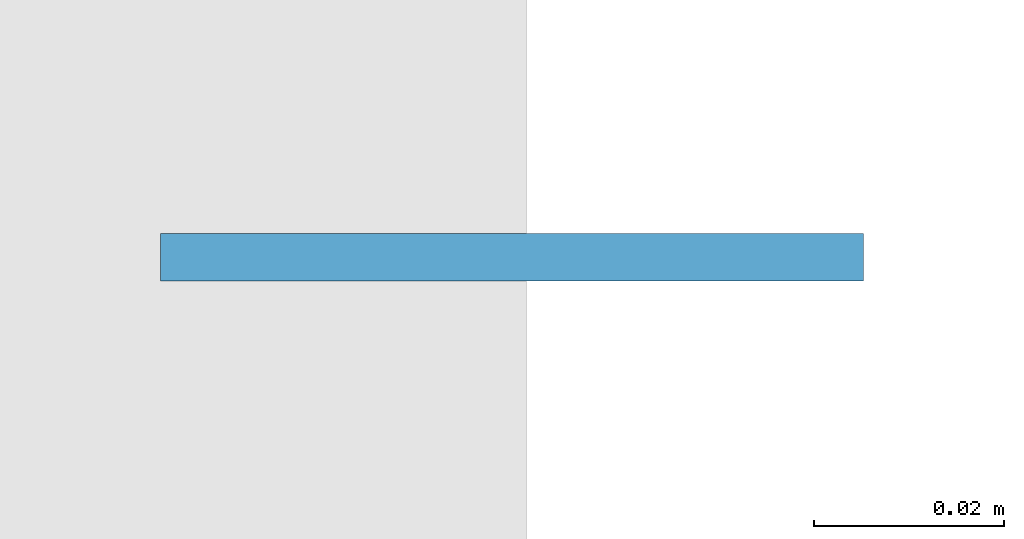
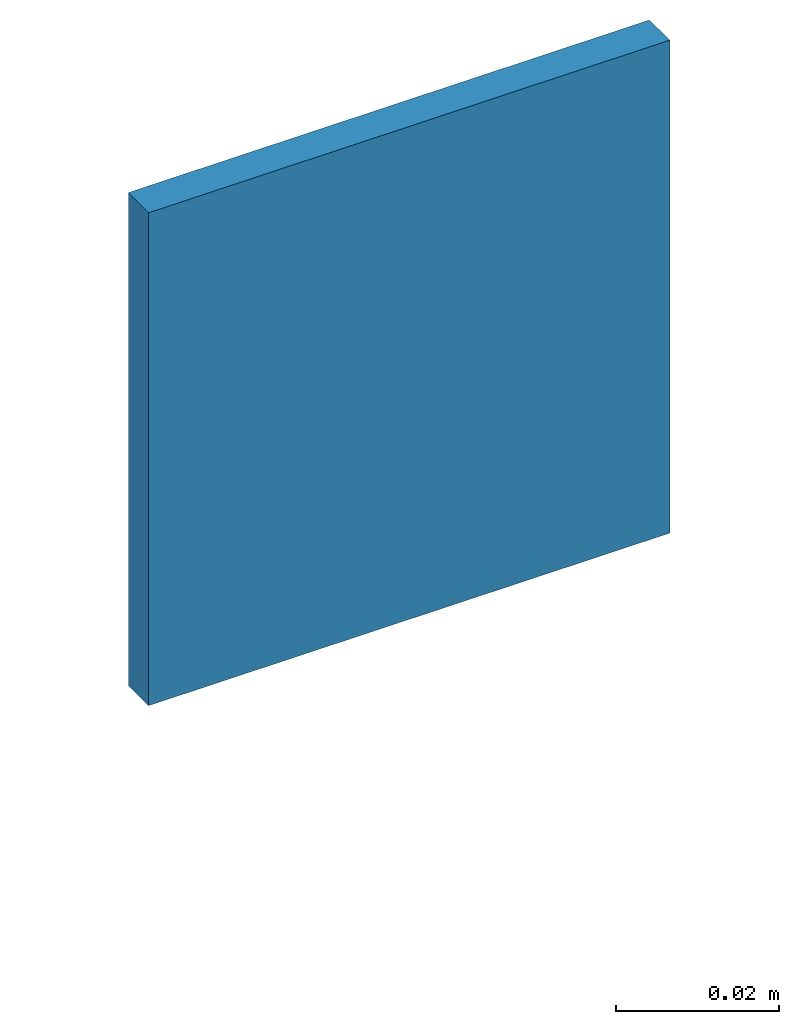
# One storey, part 13 of 15: 1 beam.
"""IFC2X3 building model written with IfcOpenShell, lengths in millimetres."""

from ifc_helpers import new_model, entity, si_unit, converted_unit, derived_unit, direction, frame, origin_with_axes, place, context, subcontext, project, spatial, faceted_brep, material, type_object, element, save


model = new_model("IFC2X3")

# Units and contexts
model_context = context("Model", 3, precision=0.01, world=frame((0.0, 4.29681676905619e-09, 0.0)), true_north=direction((4.01073788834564e-13, 1.0)))
plan_context = context("Plan", 3, precision=0.01, world=frame((0.0, 4.29681676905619e-09, 0.0)), true_north=direction((4.01073788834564e-13, 1.0)))
body_context = subcontext(model_context, "Body", "Model", "MODEL_VIEW")
ifc_project = project(units=[converted_unit("PLANEANGLEUNIT", "DEGREE", entity("IfcPositiveLengthMeasure", 0.0174532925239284), si_unit("PLANEANGLEUNIT", "RADIAN"), dimensions=[0, 0, 0, 0, 0, 0, 0]), si_unit("AREAUNIT", "SQUARE_METRE"), si_unit("LENGTHUNIT", "METRE", prefix="MILLI"), si_unit("MASSUNIT", "GRAM", prefix="KILO"), si_unit("POWERUNIT", "WATT"), si_unit("PRESSUREUNIT", "PASCAL", prefix="KILO"), si_unit("FORCEUNIT", "NEWTON", prefix="KILO"), si_unit("ELECTRICVOLTAGEUNIT", "VOLT"), si_unit("ELECTRICCURRENTUNIT", "AMPERE"), si_unit("THERMODYNAMICTEMPERATUREUNIT", "DEGREE_CELSIUS"), si_unit("TIMEUNIT", "SECOND"), si_unit("VOLUMEUNIT", "CUBIC_METRE"), derived_unit("LINEARVELOCITYUNIT", [(si_unit("LENGTHUNIT", "METRE"), 1), (si_unit("TIMEUNIT", "SECOND"), -1)]), derived_unit("VOLUMETRICFLOWRATEUNIT", [(si_unit("VOLUMEUNIT", "CUBIC_METRE"), 1), (si_unit("TIMEUNIT", "SECOND"), -1)]), derived_unit("THERMALTRANSMITTANCEUNIT", [(si_unit("POWERUNIT", "WATT"), 1), (si_unit("THERMODYNAMICTEMPERATUREUNIT", "KELVIN"), -1), (si_unit("AREAUNIT", "SQUARE_METRE"), -1)]), derived_unit("SOUNDPRESSUREUNIT", [(si_unit("PRESSUREUNIT", "PASCAL"), 1)])], contexts=[model_context, plan_context])

# Site, building, storey
site_placement = place(None, frame((0.0, -4.29681676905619e-09, 0.0), z_axis=(0.0, 0.0, 1.0), x_axis=(1.0, 0.0, 0.0)))
site = spatial("IfcSite", under=ifc_project, at=site_placement, Name="Gardermoen", CompositionType="ELEMENT")
building_placement = place(site_placement, frame((0.0, 4.29681676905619e-09, 0.0), z_axis=(0.0, 0.0, 1.0), x_axis=(1.0, 0.0, 0.0)))
building = spatial("IfcBuilding", under=site, at=building_placement, Name="TG", CompositionType="ELEMENT")
storey_placement = place(building_placement, origin_with_axes())
storey = spatial("IfcBuildingStorey", under=building, at=storey_placement, Name="F", CompositionType="ELEMENT", Elevation=0.0)

# Beam
ifc_material = material(Name="STEEL/S355J0")
beam_type = type_object("IfcBeamType", Name="PL5*74", PredefinedType="NOTDEFINED")
beam_placement = place(storey_placement, frame((349062.989649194, 463222.501095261, 213008.0), z_axis=(-1.0, 0.0, 0.0), x_axis=(0.0, 0.0, 1.0)))
element("IfcBeam", 1, at=beam_placement, inside=storey, type_object=beam_type, material=ifc_material, Name="STÅLBJELKE", ObjectType="PL5*74", context=body_context, shape_type="Brep", body=[
    faceted_brep([(0.0, 2.5, -37.0), (0.0, 2.5, 37.0), (74.0, 2.5, 37.0), (74.0, 2.5, -37.0), (0.0, -2.5, 37.0), (74.0, -2.5, 37.0), (0.0, -2.5, -37.0), (74.0, -2.5, -37.0)], [[[0, 1, 2, 3]], [[1, 4, 5, 2]], [[4, 6, 7, 5]], [[6, 0, 3, 7]], [[5, 7, 3, 2]], [[6, 4, 1, 0]]]),
])

save(model, "model.ifc")
